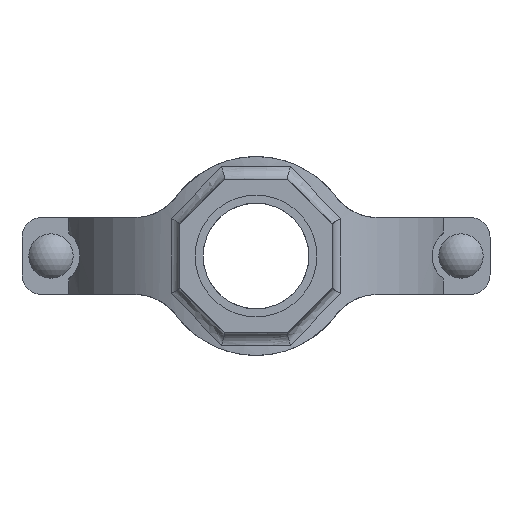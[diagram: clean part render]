
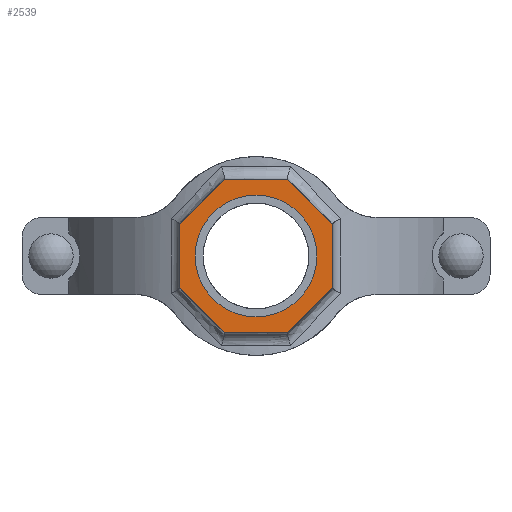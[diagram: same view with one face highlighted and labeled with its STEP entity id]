
A CAD part, front view. The second image highlights one B-rep face of the part: STEP entity #2539.
In plain terms, the highlighted planar face has unit normal (0, -1, 0) as drawn and (0, 1, 0) by its records, which use the part's own axes.
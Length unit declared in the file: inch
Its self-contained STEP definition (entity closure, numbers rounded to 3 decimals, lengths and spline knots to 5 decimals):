
#186=FACE_BOUND('',#459,.T.);
#307=FACE_OUTER_BOUND('',#458,.T.);
#458=EDGE_LOOP('',(#2138,#2139,#2140,#2141,#2142,#2143,#2144,#2145));
#459=EDGE_LOOP('',(#2146));
#594=LINE('',#4677,#780);
#597=LINE('',#4682,#783);
#599=LINE('',#4686,#785);
#601=LINE('',#4690,#787);
#641=LINE('',#5147,#827);
#643=LINE('',#5151,#829);
#645=LINE('',#5155,#831);
#647=LINE('',#5158,#833);
#780=VECTOR('',#3278,0.3937);
#783=VECTOR('',#3283,0.3937);
#785=VECTOR('',#3287,0.3937);
#787=VECTOR('',#3291,0.3937);
#827=VECTOR('',#3427,0.3937);
#829=VECTOR('',#3431,0.3937);
#831=VECTOR('',#3435,0.3937);
#833=VECTOR('',#3439,0.3937);
#919=CIRCLE('',#2802,1.1875);
#1097=VERTEX_POINT('',#4674);
#1098=VERTEX_POINT('',#4676);
#1099=VERTEX_POINT('',#4680);
#1100=VERTEX_POINT('',#4684);
#1101=VERTEX_POINT('',#4688);
#1136=VERTEX_POINT('',#4984);
#1160=VERTEX_POINT('',#5146);
#1161=VERTEX_POINT('',#5150);
#1162=VERTEX_POINT('',#5154);
#1408=EDGE_CURVE('',#1098,#1097,#594,.T.);
#1411=EDGE_CURVE('',#1097,#1099,#597,.T.);
#1413=EDGE_CURVE('',#1099,#1100,#599,.T.);
#1415=EDGE_CURVE('',#1100,#1101,#601,.T.);
#1461=EDGE_CURVE('',#1136,#1136,#919,.T.);
#1495=EDGE_CURVE('',#1160,#1098,#641,.T.);
#1497=EDGE_CURVE('',#1161,#1160,#643,.T.);
#1499=EDGE_CURVE('',#1162,#1161,#645,.T.);
#1501=EDGE_CURVE('',#1101,#1162,#647,.T.);
#2138=ORIENTED_EDGE('',*,*,#1501,.T.);
#2139=ORIENTED_EDGE('',*,*,#1499,.T.);
#2140=ORIENTED_EDGE('',*,*,#1497,.T.);
#2141=ORIENTED_EDGE('',*,*,#1495,.T.);
#2142=ORIENTED_EDGE('',*,*,#1408,.T.);
#2143=ORIENTED_EDGE('',*,*,#1411,.T.);
#2144=ORIENTED_EDGE('',*,*,#1413,.T.);
#2145=ORIENTED_EDGE('',*,*,#1415,.T.);
#2146=ORIENTED_EDGE('',*,*,#1461,.T.);
#2280=PLANE('',#2825);
#2539=ADVANCED_FACE('',(#307,#186),#2280,.T.);
#2802=AXIS2_PLACEMENT_3D('',#4985,#3369,#3370);
#2825=AXIS2_PLACEMENT_3D('',#5159,#3440,#3441);
#3278=DIRECTION('',(0.,0.,1.));
#3283=DIRECTION('',(0.707,0.,0.707));
#3287=DIRECTION('',(1.,0.,0.));
#3291=DIRECTION('',(0.707,0.,-0.707));
#3369=DIRECTION('center_axis',(0.,-1.,0.));
#3370=DIRECTION('ref_axis',(-1.,0.,0.));
#3427=DIRECTION('',(-0.707,0.,0.707));
#3431=DIRECTION('',(-1.,0.,0.));
#3435=DIRECTION('',(-0.707,0.,-0.707));
#3439=DIRECTION('',(0.,0.,-1.));
#3440=DIRECTION('center_axis',(0.,1.,0.));
#3441=DIRECTION('ref_axis',(0.,0.,1.));
#4674=CARTESIAN_POINT('',(-1.5,5.13,0.62132));
#4676=CARTESIAN_POINT('',(-1.5,5.13,-0.62132));
#4677=CARTESIAN_POINT('',(-1.5,5.13,0.62132));
#4680=CARTESIAN_POINT('',(-0.62132,5.13,1.5));
#4682=CARTESIAN_POINT('',(-0.62132,5.13,1.5));
#4684=CARTESIAN_POINT('',(0.62132,5.13,1.5));
#4686=CARTESIAN_POINT('',(0.62132,5.13,1.5));
#4688=CARTESIAN_POINT('',(1.5,5.13,0.62132));
#4690=CARTESIAN_POINT('',(1.5,5.13,0.62132));
#4984=CARTESIAN_POINT('',(1.1875,5.13,0.));
#4985=CARTESIAN_POINT('Origin',(0.,5.13,0.));
#5146=CARTESIAN_POINT('',(-0.62132,5.13,-1.5));
#5147=CARTESIAN_POINT('',(-1.5,5.13,-0.62132));
#5150=CARTESIAN_POINT('',(0.62132,5.13,-1.5));
#5151=CARTESIAN_POINT('',(-0.62132,5.13,-1.5));
#5154=CARTESIAN_POINT('',(1.5,5.13,-0.62132));
#5155=CARTESIAN_POINT('',(0.62132,5.13,-1.5));
#5158=CARTESIAN_POINT('',(1.5,5.13,-0.62132));
#5159=CARTESIAN_POINT('Origin',(0.,5.13,0.));
